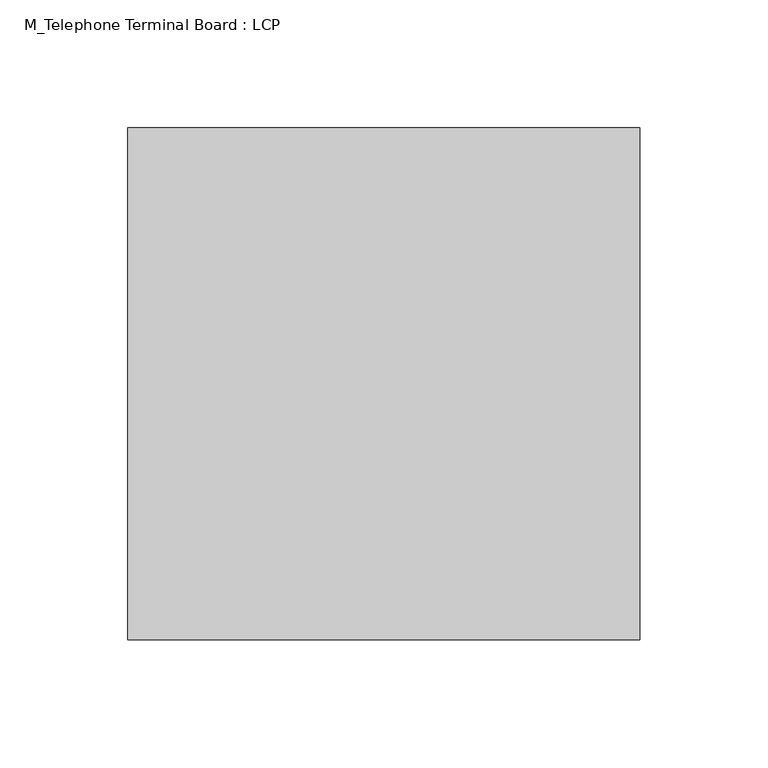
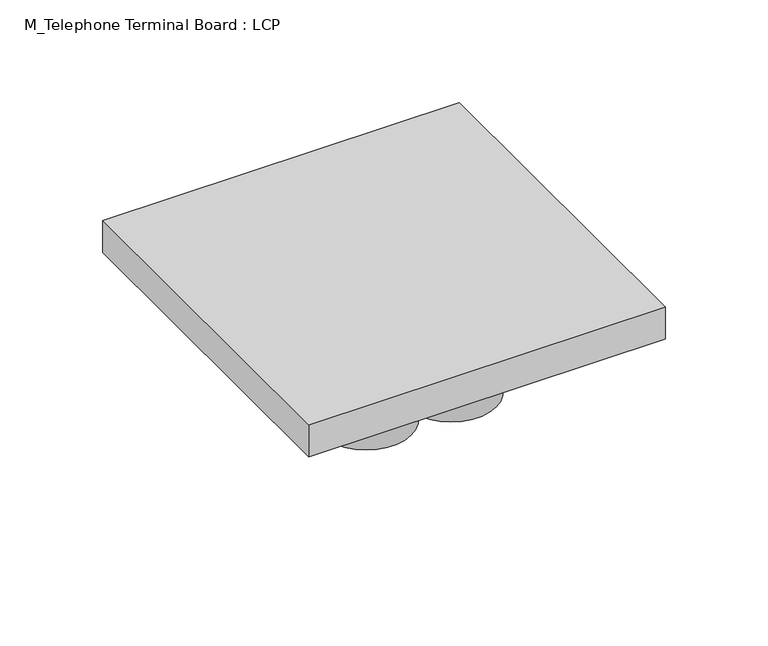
"""IFC4 building model written with IfcOpenShell, lengths in millimetres: proxy geometry, M_Telephone Terminal Board : LCP."""

from ifc_helpers import new_model, si_unit, point, frame, frame_2d, origin, origin_with_axes, place, context, project, spatial, polyline, circle_curve, trimmed, segment, composite_curve, outline, extrude, source, transform, mapped, element, save


def m_telephone_terminal_board_lcp_f1e4d104(model_context):
    return source(origin(), model_context, "Body", "SweptSolid", [
        extrude(outline(composite_curve([segment(trimmed(circle_curve(frame_2d((23.8, -23.8)), 25.4), [point((49.2, -23.8))], [point((-1.6, -23.8))], False, "CARTESIAN"), True, "CONTINUOUS"), segment(trimmed(circle_curve(frame_2d((23.8, -23.8)), 25.4), [point((-1.6, -23.8))], [point((49.2, -23.8))], False, "CARTESIAN"), True, "CONTINUOUS")], self_intersect=False)), origin_with_axes(), (0.0, 0.0, 1.0), 51.0),
        extrude(outline(composite_curve([segment(trimmed(circle_curve(frame_2d((23.8, 23.8)), 25.4), [point((49.2, 23.8))], [point((-1.6, 23.8))], False, "CARTESIAN"), True, "CONTINUOUS"), segment(trimmed(circle_curve(frame_2d((23.8, 23.8)), 25.4), [point((-1.6, 23.8))], [point((49.2, 23.8))], False, "CARTESIAN"), True, "CONTINUOUS")], self_intersect=False)), origin_with_axes(), (0.0, 0.0, 1.0), 51.0),
        extrude(outline(composite_curve([segment(trimmed(circle_curve(frame_2d((-23.8, -23.8)), 25.4), [point((-49.2, -23.8))], [point((1.6, -23.8))], False, "CARTESIAN"), True, "CONTINUOUS"), segment(trimmed(circle_curve(frame_2d((-23.8, -23.8)), 25.4), [point((1.6, -23.8))], [point((-49.2, -23.8))], False, "CARTESIAN"), True, "CONTINUOUS")], self_intersect=False)), origin_with_axes(), (0.0, 0.0, 1.0), 51.0),
        extrude(outline(composite_curve([segment(trimmed(circle_curve(frame_2d((-23.8, 23.8)), 25.4), [point((-49.2, 23.8))], [point((1.6, 23.8))], False, "CARTESIAN"), True, "CONTINUOUS"), segment(trimmed(circle_curve(frame_2d((-23.8, 23.8)), 25.4), [point((1.6, 23.8))], [point((-49.2, 23.8))], False, "CARTESIAN"), True, "CONTINUOUS")], self_intersect=False)), origin_with_axes(), (0.0, 0.0, 1.0), 51.0),
        extrude(outline(polyline([(100.0, 100.0), (100.0, -100.0), (-100.0, -100.0), (-100.0, 100.0), (100.0, 100.0)])), frame((0.0, 0.0, 51.0), z_axis=(0.0, 0.0, 1.0), x_axis=(1.0, 0.0, 0.0)), (0.0, 0.0, 1.0), 19.0),
    ])


if __name__ == "__main__":
    model = new_model("IFC4")
    model_context = context("Model", 3, world=origin())
    ifc_project = project(units=[si_unit("LENGTHUNIT", "METRE", prefix="MILLI")], contexts=[model_context])
    site = spatial("IfcSite", under=ifc_project)
    building = spatial("IfcBuilding", under=site)
    placement = place(None, origin())
    m_telephone_terminal_board_lcp_shape = m_telephone_terminal_board_lcp_f1e4d104(model_context)
    element("IfcBuildingElementProxy", 1, Name="M_Telephone Terminal Board : LCP", ObjectType="M_Telephone Terminal Board : LCP", at=placement, inside=building, context=model_context, shape_type="MappedRepresentation", body=[
        mapped(m_telephone_terminal_board_lcp_shape, transform((0.0, 0.0, 0.0), x_axis=(1.0, 0.0, 0.0), y_axis=(0.0, 1.0, 0.0), z_axis=(0.0, 0.0, 1.0))),
    ])
    save(model, "model.ifc")
